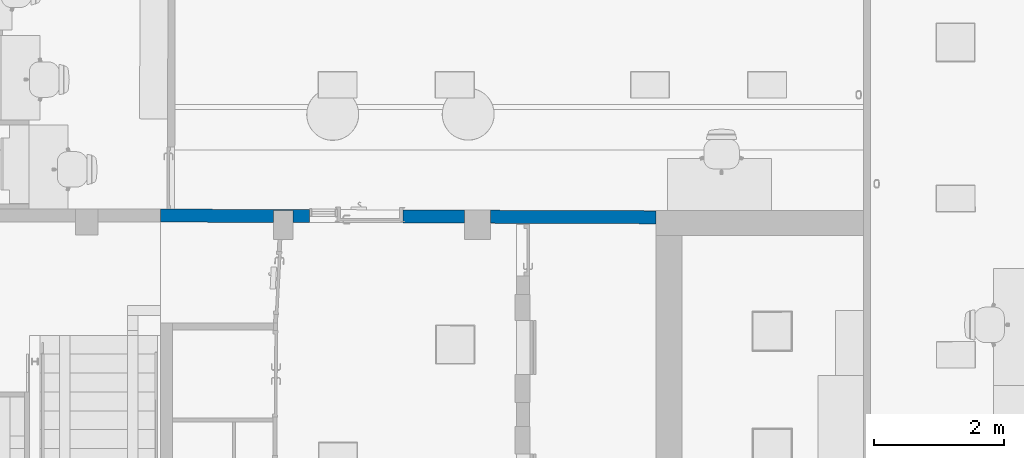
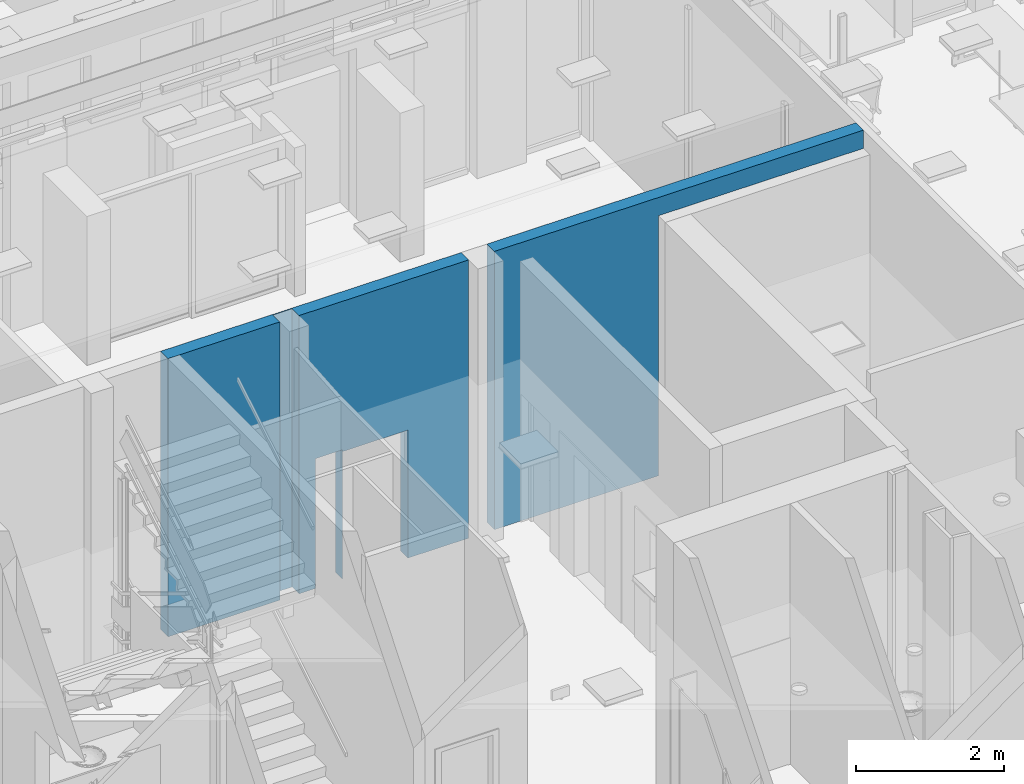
# One storey, part 44 of 128: 1 wall, 1 opening.
"""IFC2X3 building model written with IfcOpenShell, lengths in metres."""

from ifc_helpers import new_model, entity, si_unit, converted_unit, derived_unit, direction, frame, frame_2d, origin, place, context, subcontext, project, spatial, rectangle, extrude, faceted_brep, material, layer, layer_set, type_object, element, save


model = new_model("IFC2X3")

# Units and contexts
model_context = context("Model", 3, precision=1e-05, world=origin(), true_north=direction((6.123031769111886e-17, 1.0)))
body_context = subcontext(model_context, "Body", "Model", "MODEL_VIEW")
ifc_project = project(units=[si_unit("LENGTHUNIT", "METRE"), si_unit("AREAUNIT", "SQUARE_METRE"), converted_unit("PLANEANGLEUNIT", "DEGREE", entity("IfcPlaneAngleMeasure", 0.017453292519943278), si_unit("PLANEANGLEUNIT", "RADIAN"), dimensions=[0, 0, 0, 0, 0, 0, 0]), derived_unit("THERMALTRANSMITTANCEUNIT", [(si_unit("MASSUNIT", "GRAM", prefix="KILO"), 1), (si_unit("THERMODYNAMICTEMPERATUREUNIT", "KELVIN"), -1), (si_unit("TIMEUNIT", "SECOND"), -3)])], contexts=[model_context])

# Site, building, storey
site_placement = place(None, origin())
site = spatial("IfcSite", under=ifc_project, at=site_placement, Name="Default", CompositionType="ELEMENT")
building_placement = place(site_placement, origin())
building = spatial("IfcBuilding", under=site, at=building_placement, CompositionType="ELEMENT")
storey_placement = place(building_placement, origin())
storey = spatial("IfcBuildingStorey", under=building, at=storey_placement, Name="00_RDC CAF", CompositionType="ELEMENT", Elevation=2.4982504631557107e-13)

# Wall, opening
ifc_material = material(Name="STR - Beton Mur")
ifc_layer = layer(ifc_material, 0.2)
ifc_layer_set = layer_set([ifc_layer], Name="Mur de base:M_Int_Beton_200mm")
wall_type = type_object("IfcWallType", Name="Mur de base:M_Int_Beton_200mm", PredefinedType="STANDARD", material=ifc_layer_set)
wall_placement = place(storey_placement, frame((33.67848650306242, 136.7449173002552, 0.0), z_axis=(0.0, 0.0, 1.0), x_axis=(-0.9999939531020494, 0.0034776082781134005, 0.0)))
wall = element("IfcWall", 1, at=wall_placement, inside=storey, type_object=wall_type, Name="Mur de base:M_Int_Beton_200mm", ObjectType="Mur de base:M_Int_Beton_200mm", context=body_context, shape_type="Brep", body=[
    faceted_brep([(0.0008313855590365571, -0.09999999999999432, 4.278000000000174), (3.1855879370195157, -0.09999999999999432, 4.278000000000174), (3.185587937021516, -0.09999999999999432, 0.0), (5.730518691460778, -0.10000000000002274, 0.0), (5.730518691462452, -0.09999999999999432, 4.578000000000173), (0.0008313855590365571, -0.09999999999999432, 4.578000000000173), (3.1848924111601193, 0.09999999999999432, 0.0), (5.13242572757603, 0.09999999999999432, 0.0), (5.3324269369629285, 0.09999999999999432, 0.0), (5.730518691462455, 0.09999999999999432, 0.0), (0.0, 0.09999999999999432, 4.578000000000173), (0.0, 0.0999999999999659, 4.278000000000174), (3.1848924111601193, 0.09999999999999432, 4.278000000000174), (5.730518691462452, 0.09999999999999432, 4.578000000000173)], [[[0, 1, 2, 3, 4, 5]], [[2, 6, 7, 8, 9, 3]], [[5, 10, 11, 0]], [[1, 0, 11, 12]], [[12, 6, 2, 1]], [[4, 3, 9, 13]], [[10, 5, 4, 13]], [[12, 11, 10, 13, 9, 8, 7, 6]]]),
    faceted_brep([(10.799076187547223, 0.09999999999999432, 4.578000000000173), (10.799076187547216, 0.09999999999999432, 0.0), (9.063551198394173, 0.09999999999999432, 0.0), (9.06355119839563, 0.09999999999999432, 4.578000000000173), (10.799771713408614, -0.09999999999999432, 4.578000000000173), (9.064199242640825, -0.08634655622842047, 4.578000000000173), (8.764201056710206, -0.08738983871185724, 4.578000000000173), (8.76354938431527, 0.09999999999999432, 4.578000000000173), (6.130518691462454, 0.09999999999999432, 4.578000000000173), (6.130518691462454, -0.09999999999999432, 4.578000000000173), (7.075621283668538, -0.09999999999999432, 2.105000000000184), (7.075621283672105, -0.09999999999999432, 0.0), (7.075621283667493, 0.09999999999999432, 0.0), (7.075621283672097, 0.0999999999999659, 2.105000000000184), (8.085621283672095, -0.09999999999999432, 2.105000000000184), (8.085621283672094, 0.09999999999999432, 2.105000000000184), (8.085621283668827, -0.0999999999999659, 0.0), (8.085621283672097, 0.09999999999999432, 0.0), (10.79977171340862, -0.09999999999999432, 0.0), (8.764201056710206, -0.08738983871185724, 0.0), (9.064199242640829, -0.08634655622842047, 0.0), (8.763549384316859, 0.09999999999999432, 0.0), (6.130518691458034, -0.10000000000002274, 0.0), (6.130518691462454, 0.09999999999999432, 0.0), (8.508920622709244, -0.0999999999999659, 2.1350000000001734), (8.50892062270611, 0.0999999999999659, 2.1350000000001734), (8.508920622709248, 0.09999999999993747, 0.0), (8.508920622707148, -0.09999999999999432, 0.0), (8.086311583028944, -0.09999999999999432, 2.1350000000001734), (8.086311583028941, 0.09999999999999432, 2.1350000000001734), (8.086311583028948, -0.09999999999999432, 0.0), (8.08631158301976, 0.09999999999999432, 0.0)], [[[0, 1, 2, 3]], [[4, 0, 3, 5, 6, 7, 8, 9]], [[10, 11, 12, 13]], [[14, 10, 13, 15]], [[16, 14, 15, 17]], [[4, 18, 1, 0]], [[19, 6, 5, 20]], [[6, 19, 21, 7]], [[20, 5, 3, 2]], [[22, 9, 8, 23]], [[24, 25, 26, 27]], [[25, 24, 28, 29]], [[29, 28, 30, 31]], [[16, 17, 31, 30]], [[1, 18, 27, 26, 21, 19, 20, 2]], [[12, 11, 22, 23]], [[13, 12, 23, 8, 7, 21, 26, 25, 29, 31, 17, 15]], [[11, 10, 14, 16, 30, 28, 24, 27, 18, 4, 9, 22]]]),
])
opening_placement = place(wall_placement, frame((7.075621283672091, -0.10000000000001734, -0.009999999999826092)))
element("IfcOpeningElement", 2, at=opening_placement, cuts=wall, Name="P_Recouvrement_Simple:P_Int_Simple_Pleine_940x2080mm:1", ObjectType="Opening", context=body_context, shape_type="SweptSolid", body=[
    extrude(rectangle(XDim=2.1150000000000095, YDim=1.009999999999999, at=frame_2d((1.0575000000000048, 0.5050000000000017), x_axis=(1.0, 0.0))), frame((0.0, 0.0, 0.0), z_axis=(0.0, 1.0, 0.0), x_axis=(0.0, 0.0, 1.0)), (0.0, 0.0, 1.0), 0.2),
])

save(model, "model.ifc")
